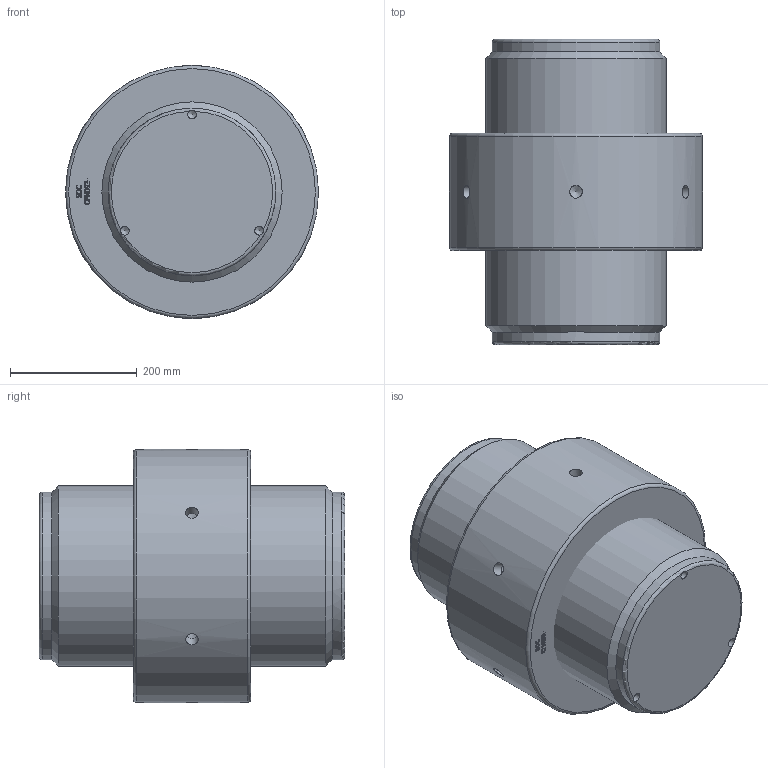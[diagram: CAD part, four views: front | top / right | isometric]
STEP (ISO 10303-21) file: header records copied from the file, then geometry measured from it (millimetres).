
FILE_DESCRIPTION(/* description */ (''),/* implementation_level */ '2;1');
FILE_NAME(/* name */ 'F:\Clienti LS\Redaelli\CYT\CYT\ARRNGEMENT\CYT092 61 061 0.stp',/* time_stamp */ '2021-05-09T08:52:16+02:00',/* author */ ('ranca'),/* organization */ (''),/* preprocessor_version */ 'ST-DEVELOPER v16.13',/* originating_system */ 'Autodesk Inventor 2018',/* authorisation */ '');
FILE_SCHEMA (('AUTOMOTIVE_DESIGN { 1 0 10303 214 3 1 1 }'));
Length unit declared in the file: millimetre
Products named in the file (3): CYT012-61-061-0; CYT012-61-061-0_1; CYT012-61-061-0_DADO
Assembly tree (2 placements, depth 2):
  CYT012-61-061-0
    CYT012-61-061-0_1
    CYT012-61-061-0_DADO
Bounding box: 400 x 483 x 400 mm (x, y, z)
Volume: 42274827.6 mm3; surface area: 1074729.5 mm2
Topology: 2 solids, 2 shells, 356 faces, 983 edges, 654 vertices
Faces by surface type: bspline 208, plane 119, cylinder 14, cone 11, torus 4
Full cylindrical faces by diameter (mm): 13.835 x3, 20 x6, 265 x2, 278.505 x1, 285 x1, 400 x1
Entity records: 12370 total; most frequent: CARTESIAN_POINT 4880, ORIENTED_EDGE 1868, EDGE_CURVE 934, DIRECTION 837, VERTEX_POINT 634, LINE 475, VECTOR 475, B_SPLINE_CURVE_WITH_KNOTS 431
